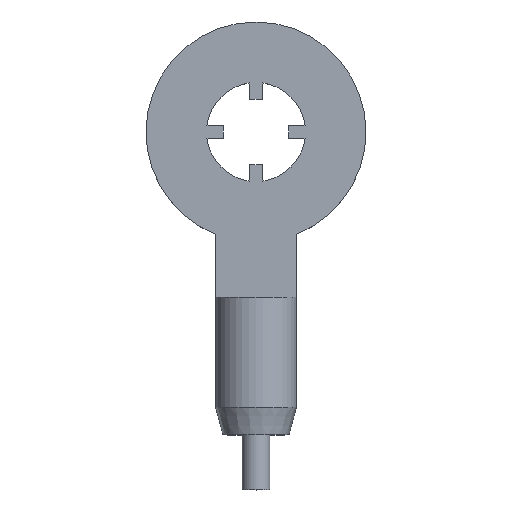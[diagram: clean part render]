
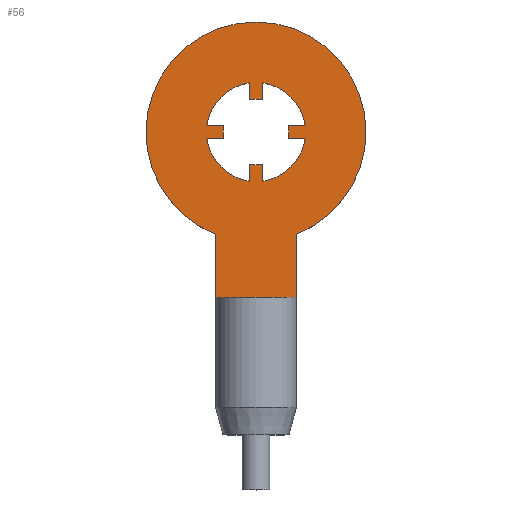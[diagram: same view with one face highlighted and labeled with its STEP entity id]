
A CAD part, top view. The second image highlights one B-rep face of the part: STEP entity #56.
In plain terms, the highlighted planar face has unit normal (0, 0, 1).
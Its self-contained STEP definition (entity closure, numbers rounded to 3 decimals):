
#56=ADVANCED_FACE('',(#110,#112),#114,.T.);
#110=FACE_BOUND('',#111,.T.);
#111=EDGE_LOOP('',(#369,#370,#371,#372));
#112=FACE_BOUND('',#113,.T.);
#113=EDGE_LOOP('',(#373,#374,#375,#376,#377,#378,#379,#380,#381,#382,#383,#384,#385,
#386,#387,#388));
#114=PLANE('',#115);
#115=AXIS2_PLACEMENT_3D('',#116,#117,#118);
#116=CARTESIAN_POINT('',(-14.679,-60.127,20.));
#117=DIRECTION('',(0.,0.,1.));
#118=DIRECTION('',(1.,0.,0.));
#369=ORIENTED_EDGE('',*,*,#527,.T.);
#370=ORIENTED_EDGE('',*,*,#501,.T.);
#371=ORIENTED_EDGE('',*,*,#528,.T.);
#372=ORIENTED_EDGE('',*,*,#505,.F.);
#373=ORIENTED_EDGE('',*,*,#529,.T.);
#374=ORIENTED_EDGE('',*,*,#530,.T.);
#375=ORIENTED_EDGE('',*,*,#531,.T.);
#376=ORIENTED_EDGE('',*,*,#532,.T.);
#377=ORIENTED_EDGE('',*,*,#533,.T.);
#378=ORIENTED_EDGE('',*,*,#534,.T.);
#379=ORIENTED_EDGE('',*,*,#535,.T.);
#380=ORIENTED_EDGE('',*,*,#536,.T.);
#381=ORIENTED_EDGE('',*,*,#537,.T.);
#382=ORIENTED_EDGE('',*,*,#538,.T.);
#383=ORIENTED_EDGE('',*,*,#539,.T.);
#384=ORIENTED_EDGE('',*,*,#540,.T.);
#385=ORIENTED_EDGE('',*,*,#541,.T.);
#386=ORIENTED_EDGE('',*,*,#542,.T.);
#387=ORIENTED_EDGE('',*,*,#543,.T.);
#388=ORIENTED_EDGE('',*,*,#544,.T.);
#501=EDGE_CURVE('',#586,#584,#587,.T.);
#505=EDGE_CURVE('',#592,#594,#595,.T.);
#527=EDGE_CURVE('',#592,#586,#635,.T.);
#528=EDGE_CURVE('',#584,#594,#636,.T.);
#529=EDGE_CURVE('',#637,#638,#639,.F.);
#530=EDGE_CURVE('',#638,#640,#641,.F.);
#531=EDGE_CURVE('',#640,#642,#643,.F.);
#532=EDGE_CURVE('',#642,#644,#645,.F.);
#533=EDGE_CURVE('',#644,#646,#647,.F.);
#534=EDGE_CURVE('',#646,#648,#649,.F.);
#535=EDGE_CURVE('',#648,#650,#651,.F.);
#536=EDGE_CURVE('',#650,#652,#653,.F.);
#537=EDGE_CURVE('',#652,#654,#655,.F.);
#538=EDGE_CURVE('',#654,#656,#657,.F.);
#539=EDGE_CURVE('',#656,#658,#659,.F.);
#540=EDGE_CURVE('',#658,#660,#661,.F.);
#541=EDGE_CURVE('',#660,#662,#663,.F.);
#542=EDGE_CURVE('',#662,#664,#665,.F.);
#543=EDGE_CURVE('',#664,#666,#667,.F.);
#544=EDGE_CURVE('',#666,#637,#668,.F.);
#584=VERTEX_POINT('',#722);
#586=VERTEX_POINT('',#726);
#587=LINE('',#727,#728);
#592=VERTEX_POINT('',#738);
#594=VERTEX_POINT('',#742);
#595=LINE('',#743,#744);
#635=LINE('',#836,#837);
#636=CIRCLE('',#839,40.);
#637=VERTEX_POINT('',#843);
#638=VERTEX_POINT('',#844);
#639=LINE('',#845,#846);
#640=VERTEX_POINT('',#848);
#641=CIRCLE('',#849,12.);
#642=VERTEX_POINT('',#853);
#643=LINE('',#854,#855);
#644=VERTEX_POINT('',#857);
#645=CIRCLE('',#858,18.);
#646=VERTEX_POINT('',#862);
#647=LINE('',#863,#864);
#648=VERTEX_POINT('',#866);
#649=CIRCLE('',#867,12.);
#650=VERTEX_POINT('',#871);
#651=LINE('',#872,#873);
#652=VERTEX_POINT('',#875);
#653=CIRCLE('',#876,18.);
#654=VERTEX_POINT('',#880);
#655=LINE('',#881,#882);
#656=VERTEX_POINT('',#884);
#657=CIRCLE('',#885,12.);
#658=VERTEX_POINT('',#889);
#659=LINE('',#890,#891);
#660=VERTEX_POINT('',#893);
#661=CIRCLE('',#894,18.);
#662=VERTEX_POINT('',#898);
#663=LINE('',#899,#900);
#664=VERTEX_POINT('',#902);
#665=CIRCLE('',#903,12.);
#666=VERTEX_POINT('',#907);
#667=LINE('',#908,#909);
#668=CIRCLE('',#911,18.);
#722=CARTESIAN_POINT('',(14.679,-37.209,20.));
#726=CARTESIAN_POINT('',(14.679,-60.127,20.));
#727=CARTESIAN_POINT('',(14.679,-60.127,20.));
#728=VECTOR('',#729,1.);
#729=DIRECTION('',(0.,1.,0.));
#738=CARTESIAN_POINT('',(-14.679,-60.127,20.));
#742=CARTESIAN_POINT('',(-14.679,-37.209,20.));
#743=CARTESIAN_POINT('',(-14.679,-60.127,20.));
#744=VECTOR('',#745,1.);
#745=DIRECTION('',(0.,1.,0.));
#836=CARTESIAN_POINT('',(-14.679,-60.127,20.));
#837=VECTOR('',#838,1.);
#838=DIRECTION('',(1.,0.,0.));
#839=AXIS2_PLACEMENT_3D('',#840,#841,#842);
#840=CARTESIAN_POINT('',(0.,0.,20.));
#841=DIRECTION('',(0.,0.,1.));
#842=DIRECTION('',(0.367,-0.93,0.));
#843=CARTESIAN_POINT('',(-17.826,-2.5,20.));
#844=CARTESIAN_POINT('',(-11.737,-2.5,20.));
#845=CARTESIAN_POINT('',(-11.737,-2.5,20.));
#846=VECTOR('',#847,1.);
#847=DIRECTION('',(-1.,0.,0.));
#848=CARTESIAN_POINT('',(-11.737,2.5,20.));
#849=AXIS2_PLACEMENT_3D('',#850,#851,#852);
#850=CARTESIAN_POINT('',(0.,0.,20.));
#851=DIRECTION('',(0.,0.,1.));
#852=DIRECTION('',(-0.978,0.208,0.));
#853=CARTESIAN_POINT('',(-17.826,2.5,20.));
#854=CARTESIAN_POINT('',(-17.826,2.5,20.));
#855=VECTOR('',#856,1.);
#856=DIRECTION('',(1.,0.,0.));
#857=CARTESIAN_POINT('',(-2.5,17.826,20.));
#858=AXIS2_PLACEMENT_3D('',#859,#860,#861);
#859=CARTESIAN_POINT('',(0.,0.,20.));
#860=DIRECTION('',(0.,0.,1.));
#861=DIRECTION('',(-0.139,0.99,0.));
#862=CARTESIAN_POINT('',(-2.5,11.737,20.));
#863=CARTESIAN_POINT('',(-2.5,11.737,20.));
#864=VECTOR('',#865,1.);
#865=DIRECTION('',(0.,1.,0.));
#866=CARTESIAN_POINT('',(2.5,11.737,20.));
#867=AXIS2_PLACEMENT_3D('',#868,#869,#870);
#868=CARTESIAN_POINT('',(0.,0.,20.));
#869=DIRECTION('',(0.,0.,1.));
#870=DIRECTION('',(0.208,0.978,0.));
#871=CARTESIAN_POINT('',(2.5,17.826,20.));
#872=CARTESIAN_POINT('',(2.5,17.826,20.));
#873=VECTOR('',#874,1.);
#874=DIRECTION('',(0.,-1.,0.));
#875=CARTESIAN_POINT('',(17.826,2.5,20.));
#876=AXIS2_PLACEMENT_3D('',#877,#878,#879);
#877=CARTESIAN_POINT('',(0.,0.,20.));
#878=DIRECTION('',(0.,0.,1.));
#879=DIRECTION('',(0.99,0.139,0.));
#880=CARTESIAN_POINT('',(11.737,2.5,20.));
#881=CARTESIAN_POINT('',(11.737,2.5,20.));
#882=VECTOR('',#883,1.);
#883=DIRECTION('',(1.,0.,0.));
#884=CARTESIAN_POINT('',(11.737,-2.5,20.));
#885=AXIS2_PLACEMENT_3D('',#886,#887,#888);
#886=CARTESIAN_POINT('',(0.,0.,20.));
#887=DIRECTION('',(0.,0.,1.));
#888=DIRECTION('',(0.978,-0.208,0.));
#889=CARTESIAN_POINT('',(17.826,-2.5,20.));
#890=CARTESIAN_POINT('',(17.826,-2.5,20.));
#891=VECTOR('',#892,1.);
#892=DIRECTION('',(-1.,0.,0.));
#893=CARTESIAN_POINT('',(2.5,-17.826,20.));
#894=AXIS2_PLACEMENT_3D('',#895,#896,#897);
#895=CARTESIAN_POINT('',(0.,0.,20.));
#896=DIRECTION('',(0.,0.,1.));
#897=DIRECTION('',(0.139,-0.99,0.));
#898=CARTESIAN_POINT('',(2.5,-11.737,20.));
#899=CARTESIAN_POINT('',(2.5,-11.737,20.));
#900=VECTOR('',#901,1.);
#901=DIRECTION('',(0.,-1.,0.));
#902=CARTESIAN_POINT('',(-2.5,-11.737,20.));
#903=AXIS2_PLACEMENT_3D('',#904,#905,#906);
#904=CARTESIAN_POINT('',(0.,0.,20.));
#905=DIRECTION('',(0.,0.,1.));
#906=DIRECTION('',(-0.208,-0.978,0.));
#907=CARTESIAN_POINT('',(-2.5,-17.826,20.));
#908=CARTESIAN_POINT('',(-2.5,-17.826,20.));
#909=VECTOR('',#910,1.);
#910=DIRECTION('',(0.,1.,0.));
#911=AXIS2_PLACEMENT_3D('',#912,#913,#914);
#912=CARTESIAN_POINT('',(0.,0.,20.));
#913=DIRECTION('',(0.,0.,1.));
#914=DIRECTION('',(-0.99,-0.139,0.));
